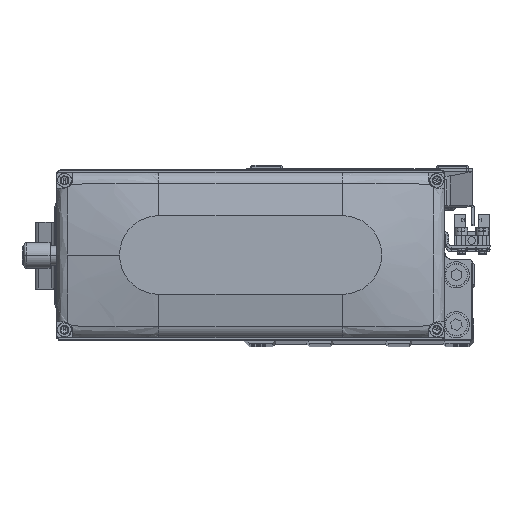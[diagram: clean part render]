
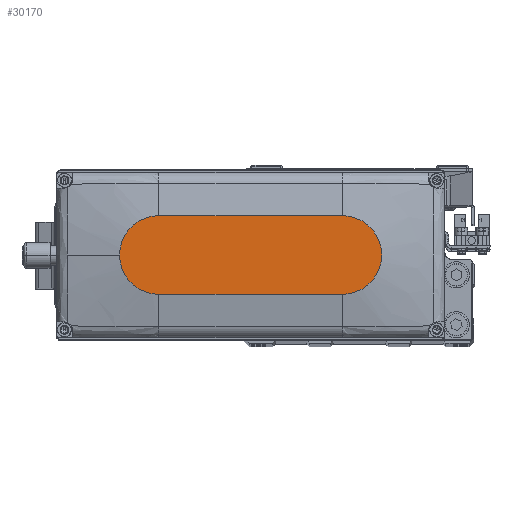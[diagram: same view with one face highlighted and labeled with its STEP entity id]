
A CAD part, top view. The second image highlights one B-rep face of the part: STEP entity #30170.
In plain terms, the highlighted planar face has unit normal (0, 0, 1).
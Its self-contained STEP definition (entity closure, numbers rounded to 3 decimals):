
#417 = CARTESIAN_POINT ( 'NONE',  ( 0., 0., 35. ) ) ;
#2176 = ORIENTED_EDGE ( 'NONE', *, *, #43277, .T. ) ;
#3052 = DIRECTION ( 'NONE',  ( 1., 0., 0. ) ) ;
#3529 = CARTESIAN_POINT ( 'NONE',  ( -35., 15., 35. ) ) ;
#5073 = CIRCLE ( 'NONE', #32932, 15. ) ;
#5208 = EDGE_CURVE ( 'NONE', #8158, #44492, #5073, .T. ) ;
#5234 = CARTESIAN_POINT ( 'NONE',  ( -35., 15., 35. ) ) ;
#5732 = DIRECTION ( 'NONE',  ( 0., 0., 1. ) ) ;
#6851 = LINE ( 'NONE', #22045, #22154 ) ;
#8158 = VERTEX_POINT ( 'NONE', #15726 ) ;
#11642 = ORIENTED_EDGE ( 'NONE', *, *, #31794, .T. ) ;
#12539 = DIRECTION ( 'NONE',  ( 0., 0., 1. ) ) ;
#14197 = CARTESIAN_POINT ( 'NONE',  ( 50., 0., 35. ) ) ;
#14913 = CIRCLE ( 'NONE', #42846, 15. ) ;
#15601 = DIRECTION ( 'NONE',  ( 0., 0., 1. ) ) ;
#15726 = CARTESIAN_POINT ( 'NONE',  ( 35., -15., 35. ) ) ;
#16407 = EDGE_LOOP ( 'NONE', ( #2176, #40098, #11642, #27794, #49166 ) ) ;
#18337 = EDGE_CURVE ( 'NONE', #44492, #24766, #45940, .T. ) ;
#18721 = DIRECTION ( 'NONE',  ( -1., 0., 0. ) ) ;
#19343 = FACE_OUTER_BOUND ( 'NONE', #16407, .T. ) ;
#20913 = DIRECTION ( 'NONE',  ( 1., 0., 0. ) ) ;
#21964 = CARTESIAN_POINT ( 'NONE',  ( 35., 0., 35. ) ) ;
#22045 = CARTESIAN_POINT ( 'NONE',  ( -35., -15., 35. ) ) ;
#22059 = VECTOR ( 'NONE', #18721, 1000. ) ;
#22154 = VECTOR ( 'NONE', #37290, 1000. ) ;
#24400 = AXIS2_PLACEMENT_3D ( 'NONE', #21964, #37203, #3052 ) ;
#24575 = CARTESIAN_POINT ( 'NONE',  ( -35., -15., 35. ) ) ;
#24766 = VERTEX_POINT ( 'NONE', #32668 ) ;
#27760 = DIRECTION ( 'NONE',  ( 1., 0., 0. ) ) ;
#27794 = ORIENTED_EDGE ( 'NONE', *, *, #5208, .T. ) ;
#28223 = EDGE_CURVE ( 'NONE', #42228, #32265, #14913, .T. ) ;
#30170 = ADVANCED_FACE ( 'NONE', ( #19343 ), #34564, .T. ) ;
#30823 = DIRECTION ( 'NONE',  ( 1., 0., 0. ) ) ;
#31794 = EDGE_CURVE ( 'NONE', #32265, #8158, #6851, .T. ) ;
#32265 = VERTEX_POINT ( 'NONE', #24575 ) ;
#32668 = CARTESIAN_POINT ( 'NONE',  ( 35., 15., 35. ) ) ;
#32932 = AXIS2_PLACEMENT_3D ( 'NONE', #46728, #12539, #27760 ) ;
#34564 = PLANE ( 'NONE',  #36475 ) ;
#36475 = AXIS2_PLACEMENT_3D ( 'NONE', #417, #15601, #30823 ) ;
#37203 = DIRECTION ( 'NONE',  ( 0., 0., 1. ) ) ;
#37290 = DIRECTION ( 'NONE',  ( 1., 0., 0. ) ) ;
#37682 = LINE ( 'NONE', #3529, #22059 ) ;
#39892 = CARTESIAN_POINT ( 'NONE',  ( -35., 0., 35. ) ) ;
#40098 = ORIENTED_EDGE ( 'NONE', *, *, #28223, .T. ) ;
#42228 = VERTEX_POINT ( 'NONE', #5234 ) ;
#42846 = AXIS2_PLACEMENT_3D ( 'NONE', #39892, #5732, #20913 ) ;
#43277 = EDGE_CURVE ( 'NONE', #24766, #42228, #37682, .T. ) ;
#44492 = VERTEX_POINT ( 'NONE', #14197 ) ;
#45940 = CIRCLE ( 'NONE', #24400, 15. ) ;
#46728 = CARTESIAN_POINT ( 'NONE',  ( 35., 0., 35. ) ) ;
#49166 = ORIENTED_EDGE ( 'NONE', *, *, #18337, .T. ) ;
